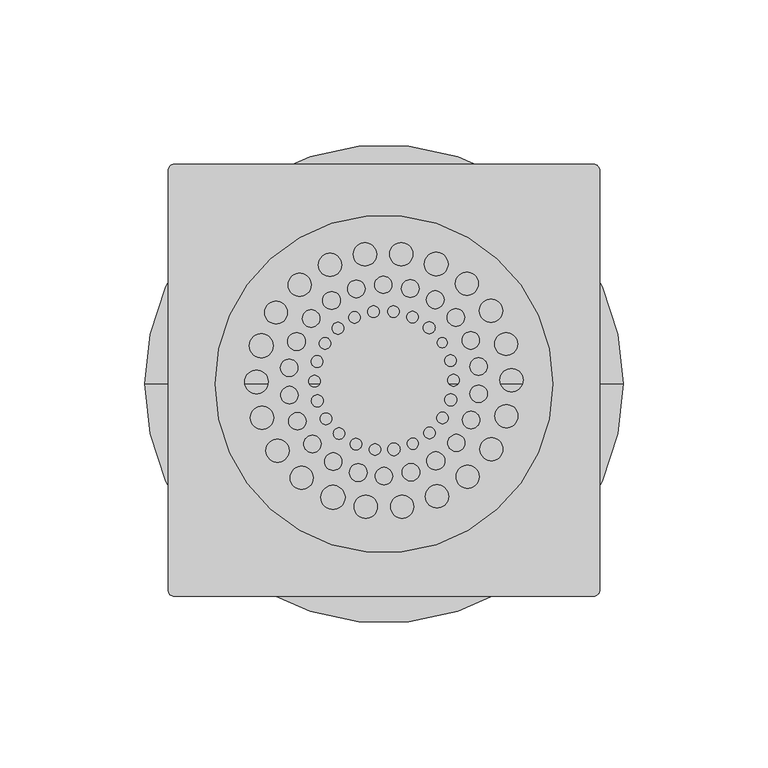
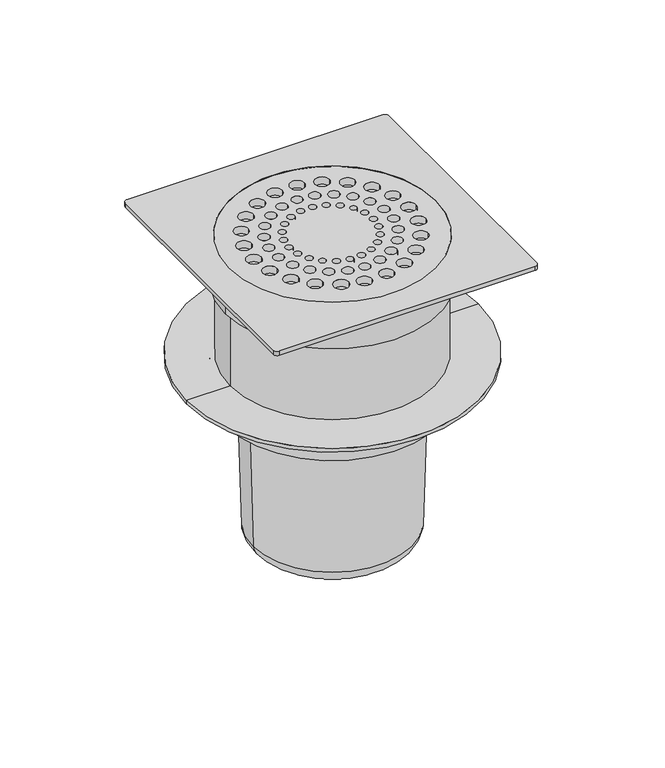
"""IFC4 building model written with IfcOpenShell, lengths in millimetres: flow terminal geometry, AI_Appareil sanitaire_Siphon de sol_Sortie verticale : Siphon de sol."""

from ifc_helpers import new_model, si_unit, point, frame, frame_2d, origin, origin_with_axes, place, context, project, spatial, polyline, circle_curve, ellipse_curve, trimmed, segment, composite_curve, outline, extrude, source, transform, mapped, element, save
from ifc_brep_helpers import plane_surface, cylinder_surface, revolved_surface, advanced_brep


def flow_terminal_425eb7e2(model_context):
    return source(origin(), model_context, "Body", "SolidModel", [
        advanced_brep(
        [(60.4618362, -1.2697961, -2.0522115), (-60.4727017, -1.2697961, -2.0522115), (-0.0054328, -1.2697961, -2.0522115), (60.4618362, -1.2697961, -23.7250315), (-60.4727017, -1.2697961, -23.7250315), (57.7345657, -1.2697961, -25.2996218), (-57.7454313, -1.2697961, -25.2996218), (57.7345657, -1.2697961, -67.7621939), (-57.7454313, -1.2697961, -67.7621939), (82.494787, -1.2697961, -67.7621939), (-82.5056525, -1.2697961, -67.7621939), (82.494787, -1.2697961, -69.9636643), (-82.5056525, -1.2697961, -69.9636643), (60.5069406, -1.2697961, -69.9636643), (-60.5178061, -1.2697961, -69.9636643), (60.5069406, -1.2697961, -90.4621959), (-60.5178061, -1.2697961, -90.4621959), (48.2467, -1.2697961, -90.4621959), (-48.2575656, -1.2697961, -90.4621959), (48.2467, -1.2697961, -95.4652283), (-48.2575656, -1.2697961, -95.4652283), (47.347651, -1.2697961, -95.4652283), (-47.3585166, -1.2697961, -95.4652283), (46.6244744, -1.2697961, -95.953017), (-46.63534, -1.2697961, -95.953017), (44.7260574, -1.2697961, -168.1693257), (-44.736923, -1.2697961, -168.1693257), (37.5171761, -1.2697961, -176.462195), (-37.5280416, -1.2697961, -176.462195), (-0.0054328, -1.2697961, -176.462195)],
        [
            (0, 1, circle_curve(frame((-0.0054328, -1.2697961, -2.0522115), z_axis=(0.0, 0.0, 1.0), x_axis=(-1.0, 0.0, 0.0)), 60.467269)),
            (1, 2),
            (2, 0),
            (1, 0, circle_curve(frame((-0.0054328, -1.2697961, -2.0522115), z_axis=(0.0, 0.0, 1.0), x_axis=(-1.0, 0.0, 0.0)), 60.467269)),
            (3, 4, circle_curve(frame((-0.0054328, -1.2697961, -23.7250315), z_axis=(0.0, 0.0, 1.0), x_axis=(-1.0, 0.0, 0.0)), 60.467269)),
            (4, 1),
            (0, 3),
            (4, 3, circle_curve(frame((-0.0054328, -1.2697961, -23.7250315), z_axis=(0.0, 0.0, 1.0), x_axis=(-1.0, 0.0, 0.0)), 60.467269)),
            (5, 6, circle_curve(frame((-0.0054328, -1.2697961, -25.2996218), z_axis=(0.0, 0.0, 1.0), x_axis=(-1.0, 0.0, 0.0)), 57.7399985)),
            (6, 4),
            (3, 5),
            (6, 5, circle_curve(frame((-0.0054328, -1.2697961, -25.2996218), z_axis=(0.0, 0.0, 1.0), x_axis=(-1.0, 0.0, 0.0)), 57.7399985)),
            (7, 8, circle_curve(frame((-0.0054328, -1.2697961, -67.7621939), z_axis=(0.0, 0.0, 1.0), x_axis=(-1.0, 0.0, 0.0)), 57.7399985)),
            (8, 6),
            (5, 7),
            (8, 7, circle_curve(frame((-0.0054328, -1.2697961, -67.7621939), z_axis=(0.0, 0.0, 1.0), x_axis=(-1.0, 0.0, 0.0)), 57.7399985)),
            (9, 10, circle_curve(frame((-0.0054328, -1.2697961, -67.7621939), z_axis=(0.0, 0.0, 1.0), x_axis=(-1.0, 0.0, 0.0)), 82.5002197)),
            (10, 8),
            (7, 9),
            (10, 9, circle_curve(frame((-0.0054328, -1.2697961, -67.7621939), z_axis=(0.0, 0.0, 1.0), x_axis=(-1.0, 0.0, 0.0)), 82.5002197)),
            (11, 12, circle_curve(frame((-0.0054328, -1.2697961, -69.9636643), z_axis=(0.0, 0.0, 1.0), x_axis=(-1.0, 0.0, 0.0)), 82.5002197)),
            (12, 10),
            (9, 11),
            (12, 11, circle_curve(frame((-0.0054328, -1.2697961, -69.9636643), z_axis=(0.0, 0.0, 1.0), x_axis=(-1.0, 0.0, 0.0)), 82.5002197)),
            (13, 14, circle_curve(frame((-0.0054328, -1.2697961, -69.9636643), z_axis=(0.0, 0.0, 1.0), x_axis=(-1.0, 0.0, 0.0)), 60.5123734)),
            (14, 12),
            (11, 13),
            (14, 13, circle_curve(frame((-0.0054328, -1.2697961, -69.9636643), z_axis=(0.0, 0.0, 1.0), x_axis=(-1.0, 0.0, 0.0)), 60.5123734)),
            (15, 16, circle_curve(frame((-0.0054328, -1.2697961, -90.4621959), z_axis=(0.0, 0.0, 1.0), x_axis=(-1.0, 0.0, 0.0)), 60.5123734)),
            (16, 14),
            (13, 15),
            (16, 15, circle_curve(frame((-0.0054328, -1.2697961, -90.4621959), z_axis=(0.0, 0.0, 1.0), x_axis=(-1.0, 0.0, 0.0)), 60.5123734)),
            (17, 18, circle_curve(frame((-0.0054328, -1.2697961, -90.4621959), z_axis=(0.0, 0.0, 1.0), x_axis=(-1.0, 0.0, 0.0)), 48.2521328)),
            (18, 16),
            (15, 17),
            (18, 17, circle_curve(frame((-0.0054328, -1.2697961, -90.4621959), z_axis=(0.0, 0.0, 1.0), x_axis=(-1.0, 0.0, 0.0)), 48.2521328)),
            (19, 20, circle_curve(frame((-0.0054328, -1.2697961, -95.4652283), z_axis=(0.0, 0.0, 1.0), x_axis=(-1.0, 0.0, 0.0)), 48.2521328)),
            (20, 18),
            (17, 19),
            (20, 19, circle_curve(frame((-0.0054328, -1.2697961, -95.4652283), z_axis=(0.0, 0.0, 1.0), x_axis=(-1.0, 0.0, 0.0)), 48.2521328)),
            (21, 22, circle_curve(frame((-0.0054328, -1.2697961, -95.4652283), z_axis=(0.0, 0.0, 1.0), x_axis=(-1.0, 0.0, 0.0)), 47.3530838)),
            (22, 20),
            (19, 21),
            (22, 21, circle_curve(frame((-0.0054328, -1.2697961, -95.4652283), z_axis=(0.0, 0.0, 1.0), x_axis=(-1.0, 0.0, 0.0)), 47.3530838)),
            (23, 24, circle_curve(frame((-0.0054328, -1.2697961, -95.953017), z_axis=(0.0, 0.0, 1.0), x_axis=(-1.0, 0.0, 0.0)), 46.6299072)),
            (24, 22, circle_curve(frame((-47.2576118, -1.2697961, -96.0956019), z_axis=(0.0, -1.0, 0.0), x_axis=(1.0, 0.0, 0.0)), 0.6383985)),
            (21, 23, circle_curve(frame((47.2467463, -1.2697961, -96.0956019), z_axis=(0.0, -1.0, 0.0), x_axis=(-1.0, 0.0, 0.0)), 0.6383985)),
            (24, 23, circle_curve(frame((-0.0054328, -1.2697961, -95.953017), z_axis=(0.0, 0.0, 1.0), x_axis=(-1.0, 0.0, 0.0)), 46.6299072)),
            (25, 26, circle_curve(frame((-0.0054328, -1.2697961, -168.1693257), z_axis=(0.0, 0.0, 1.0), x_axis=(-1.0, 0.0, 0.0)), 44.7314902)),
            (26, 24),
            (23, 25),
            (26, 25, circle_curve(frame((-0.0054328, -1.2697961, -168.1693257), z_axis=(0.0, 0.0, 1.0), x_axis=(-1.0, 0.0, 0.0)), 44.7314902)),
            (27, 28, circle_curve(frame((-0.0054328, -1.2697961, -176.462195), z_axis=(0.0, 0.0, 1.0), x_axis=(-1.0, 0.0, 0.0)), 37.5226089)),
            (28, 26, circle_curve(frame((-35.9839826, -1.2697961, -167.8402378), z_axis=(0.0, 1.0, 0.0), x_axis=(1.0, 0.0, 0.0)), 8.7591246)),
            (25, 27, circle_curve(frame((35.973117, -1.2697961, -167.8402378), z_axis=(0.0, 1.0, 0.0), x_axis=(-1.0, 0.0, 0.0)), 8.7591246)),
            (28, 27, circle_curve(frame((-0.0054328, -1.2697961, -176.462195), z_axis=(0.0, 0.0, 1.0), x_axis=(-1.0, 0.0, 0.0)), 37.5226089)),
            (29, 28),
            (27, 29),
        ],
        [
            plane_surface(frame((-0.0054328, -1.2697961, -2.0522115), z_axis=(0.0, 0.0, 1.0), x_axis=(-1.0, 0.0, 0.0))),
            cylinder_surface(frame((-0.0054328, -1.2697961, -176.462195), z_axis=(0.0, 0.0, -1.0), x_axis=(-1.0, 0.0, 0.0)), 60.467269),
            revolved_surface(polyline([(-60.4727017, -1.2697961, -23.7250315), (-57.7454313, -1.2697961, -25.2996218)]), (-0.0054328, -1.2697961, -176.462195), (0.0, 0.0, -1.0)),
            cylinder_surface(frame((-0.0054328, -1.2697961, -176.462195), z_axis=(0.0, 0.0, -1.0), x_axis=(-1.0, 0.0, 0.0)), 57.7399985),
            plane_surface(frame((-0.0054328, -1.2697961, -67.7621939), z_axis=(0.0, 0.0, 1.0), x_axis=(-1.0, 0.0, 0.0))),
            cylinder_surface(frame((-0.0054328, -1.2697961, -176.462195), z_axis=(0.0, 0.0, -1.0), x_axis=(-1.0, 0.0, 0.0)), 82.5002197),
            plane_surface(frame((-0.0054328, -1.2697961, -69.9636643), z_axis=(0.0, 0.0, -1.0), x_axis=(-1.0, 0.0, 0.0))),
            cylinder_surface(frame((-0.0054328, -1.2697961, -176.462195), z_axis=(0.0, 0.0, -1.0), x_axis=(-1.0, 0.0, 0.0)), 60.5123734),
            plane_surface(frame((-0.0054328, -1.2697961, -90.4621959), z_axis=(0.0, 0.0, -1.0), x_axis=(-1.0, 0.0, 0.0))),
            cylinder_surface(frame((-0.0054328, -1.2697961, -176.462195), z_axis=(0.0, 0.0, -1.0), x_axis=(-1.0, 0.0, 0.0)), 48.2521328),
            plane_surface(frame((-0.0054328, -1.2697961, -95.4652283), z_axis=(0.0, 0.0, -1.0), x_axis=(-1.0, 0.0, 0.0))),
            revolved_surface(trimmed(ellipse_curve(frame((-47.2576118, -1.2697961, -96.0956019), z_axis=(0.0, 1.0, 0.0), x_axis=(1.0, 0.0, 0.0)), 0.6383985, 0.6383985), [point((-47.3585166, -1.2697961, -95.4652283))], [point((-46.63534, -1.2697961, -95.953017))], True, "CARTESIAN"), (-0.0054328, -1.2697961, -176.462195), (0.0, 0.0, -1.0)),
            revolved_surface(polyline([(-46.63534, -1.2697961, -95.953017), (-44.736923, -1.2697961, -168.1693257)]), (-0.0054328, -1.2697961, -176.462195), (0.0, 0.0, -1.0)),
            revolved_surface(trimmed(ellipse_curve(frame((-35.9839826, -1.2697961, -167.8402378), z_axis=(0.0, -1.0, 0.0), x_axis=(1.0, 0.0, 0.0)), 8.7591246, 8.7591246), [point((-44.736923, -1.2697961, -168.1693257))], [point((-37.5280416, -1.2697961, -176.462195))], True, "CARTESIAN"), (-0.0054328, -1.2697961, -176.462195), (0.0, 0.0, -1.0)),
            plane_surface(frame((-0.0054328, -1.2697961, -176.462195), z_axis=(0.0, 0.0, -1.0), x_axis=(-1.0, 0.0, 0.0))),
        ],
        [
            (0, [[1, 2, 3]]),
            (0, [[4, -3, -2]]),
            (1, [[5, 6, -1, 7]]),
            (1, [[8, -7, -4, -6]]),
            (2, [[9, 10, -5, 11]]),
            (2, [[12, -11, -8, -10]]),
            (3, [[13, 14, -9, 15]]),
            (3, [[16, -15, -12, -14]]),
            (4, [[17, 18, -13, 19]]),
            (4, [[20, -19, -16, -18]]),
            (5, [[21, 22, -17, 23]]),
            (5, [[24, -23, -20, -22]]),
            (6, [[25, 26, -21, 27]]),
            (6, [[28, -27, -24, -26]]),
            (7, [[29, 30, -25, 31]]),
            (7, [[32, -31, -28, -30]]),
            (8, [[33, 34, -29, 35]]),
            (8, [[36, -35, -32, -34]]),
            (9, [[37, 38, -33, 39]]),
            (9, [[40, -39, -36, -38]]),
            (10, [[41, 42, -37, 43]]),
            (10, [[44, -43, -40, -42]]),
            (11, [[45, 46, -41, 47]]),
            (11, [[48, -47, -44, -46]]),
            (12, [[49, 50, -45, 51]]),
            (12, [[52, -51, -48, -50]]),
            (13, [[53, 54, -49, 55]]),
            (13, [[56, -55, -52, -54]]),
            (14, [[57, -53, 58]]),
            (14, [[-58, -56, -57]]),
        ],
    ),
        extrude(outline(composite_curve([segment(polyline([(72.2737667, -74.572082), (-72.3051489, -74.572082)]), True, "CONTINUOUS"), segment(trimmed(circle_curve(frame_2d((-72.3051489, -72.3884901)), 2.1835918), [point((-72.3051489, -74.572082))], [point((-74.4887407, -72.3884901))], False, "CARTESIAN"), True, "CONTINUOUS"), segment(polyline([(-74.4887407, -72.3884901), (-74.4887407, 72.3884901)]), True, "CONTINUOUS"), segment(trimmed(circle_curve(frame_2d((-72.3249299, 72.3884901)), 2.1638108), [point((-74.4887407, 72.3884901))], [point((-72.3249299, 74.5523009))], False, "CARTESIAN"), True, "CONTINUOUS"), segment(polyline([(-72.3249299, 74.5523009), (72.3249299, 74.5523009)]), True, "CONTINUOUS"), segment(trimmed(circle_curve(frame_2d((72.3249299, 72.3825461)), 2.1697548), [point((72.3249299, 74.5523009))], [point((74.4946847, 72.3825461))], False, "CARTESIAN"), True, "CONTINUOUS"), segment(polyline([(74.4946847, 72.3825461), (74.4946847, -72.3511639)]), True, "CONTINUOUS"), segment(trimmed(circle_curve(frame_2d((72.2737667, -72.3511639)), 2.220918), [point((74.4946847, -72.3511639))], [point((72.2737667, -74.572082))], False, "CARTESIAN"), True, "CONTINUOUS")], self_intersect=False), holes=[composite_curve([segment(trimmed(circle_curve(frame_2d((-0.0054328, -1.2697961)), 58.2552708), [point((-58.2607036, -1.2697961))], [point((58.249838, -1.2697961))], True, "CARTESIAN"), True, "CONTINUOUS"), segment(trimmed(circle_curve(frame_2d((-0.0054328, -1.2697961)), 58.2552708), [point((58.249838, -1.2697961))], [point((-58.2607036, -1.2697961))], True, "CARTESIAN"), True, "CONTINUOUS")], self_intersect=False)]), origin_with_axes(), (0.0, 0.0, 1.0), 2.5294595),
        extrude(outline(composite_curve([segment(trimmed(circle_curve(frame_2d((-0.0054328, -1.2697961)), 58.2552708), [point((58.249838, -1.2697961))], [point((-58.2607036, -1.2697961))], False, "CARTESIAN"), True, "CONTINUOUS"), segment(trimmed(circle_curve(frame_2d((-0.0054328, -1.2697961)), 58.2552708), [point((-58.2607036, -1.2697961))], [point((58.249838, -1.2697961))], False, "CARTESIAN"), True, "CONTINUOUS")], self_intersect=False), holes=[composite_curve([segment(trimmed(circle_curve(frame_2d((-37.2379326, 23.3741086)), 3.9297968), [point((-41.1677294, 23.3741086))], [point((-33.3081358, 23.3741086))], True, "CARTESIAN"), True, "CONTINUOUS"), segment(trimmed(circle_curve(frame_2d((-37.2379326, 23.3741086)), 3.9297968), [point((-33.3081358, 23.3741086))], [point((-41.1677294, 23.3741086))], True, "CARTESIAN"), True, "CONTINUOUS")], self_intersect=False), composite_curve([segment(trimmed(circle_curve(frame_2d((-29.1031559, 32.932438)), 4.0000012), [point((-33.1031571, 32.932438))], [point((-25.1031547, 32.932438))], True, "CARTESIAN"), True, "CONTINUOUS"), segment(trimmed(circle_curve(frame_2d((-29.1031559, 32.932438)), 4.0000012), [point((-25.1031547, 32.932438))], [point((-33.1031571, 32.932438))], True, "CARTESIAN"), True, "CONTINUOUS")], self_intersect=False), composite_curve([segment(trimmed(circle_curve(frame_2d((-18.6006368, 39.8050937)), 4.0000021), [point((-22.6006389, 39.8050937))], [point((-14.6006346, 39.8050937))], True, "CARTESIAN"), True, "CONTINUOUS"), segment(trimmed(circle_curve(frame_2d((-18.6006368, 39.8050937)), 4.0000021), [point((-14.6006346, 39.8050937))], [point((-22.6006389, 39.8050937))], True, "CARTESIAN"), True, "CONTINUOUS")], self_intersect=False), composite_curve([segment(trimmed(circle_curve(frame_2d((-6.5849885, 43.4328326)), 4.0164827), [point((-10.6014712, 43.4328326))], [point((-2.5685058, 43.4328326))], True, "CARTESIAN"), True, "CONTINUOUS"), segment(trimmed(circle_curve(frame_2d((-6.5849885, 43.4328326)), 4.0164827), [point((-2.5685058, 43.4328326))], [point((-10.6014712, 43.4328326))], True, "CARTESIAN"), True, "CONTINUOUS")], self_intersect=False), composite_curve([segment(trimmed(circle_curve(frame_2d((5.9660527, 43.5204567)), 4.0107661), [point((1.9552865, 43.5204567))], [point((9.9768188, 43.5204567))], True, "CARTESIAN"), True, "CONTINUOUS"), segment(trimmed(circle_curve(frame_2d((5.9660527, 43.5204567)), 4.0107661), [point((9.9768188, 43.5204567))], [point((1.9552865, 43.5204567))], True, "CARTESIAN"), True, "CONTINUOUS")], self_intersect=False), composite_curve([segment(trimmed(circle_curve(frame_2d((18.0311809, 40.0608376)), 4.069108), [point((13.9620729, 40.0608376))], [point((22.1002889, 40.0608376))], True, "CARTESIAN"), True, "CONTINUOUS"), segment(trimmed(circle_curve(frame_2d((18.0311809, 40.0608376)), 4.069108), [point((22.1002889, 40.0608376))], [point((13.9620729, 40.0608376))], True, "CARTESIAN"), True, "CONTINUOUS")], self_intersect=False), composite_curve([segment(trimmed(circle_curve(frame_2d((28.6286332, 33.3354895)), 3.9860411), [point((24.642592, 33.3354895))], [point((32.6146743, 33.3354895))], True, "CARTESIAN"), True, "CONTINUOUS"), segment(trimmed(circle_curve(frame_2d((28.6286332, 33.3354895)), 3.9860411), [point((32.6146743, 33.3354895))], [point((24.642592, 33.3354895))], True, "CARTESIAN"), True, "CONTINUOUS")], self_intersect=False), composite_curve([segment(trimmed(circle_curve(frame_2d((17.6768517, 27.7903724)), 3.0482625), [point((14.6285892, 27.7903724))], [point((20.7251142, 27.7903724))], True, "CARTESIAN"), True, "CONTINUOUS"), segment(trimmed(circle_curve(frame_2d((17.6768517, 27.7903724)), 3.0482625), [point((20.7251142, 27.7903724))], [point((14.6285892, 27.7903724))], True, "CARTESIAN"), True, "CONTINUOUS")], self_intersect=False), composite_curve([segment(trimmed(circle_curve(frame_2d((9.8327198, 21.8184338)), 2.0000135), [point((7.8327062, 21.8184338))], [point((11.8327333, 21.8184338))], True, "CARTESIAN"), True, "CONTINUOUS"), segment(trimmed(circle_curve(frame_2d((9.8327198, 21.8184338)), 2.0000135), [point((11.8327333, 21.8184338))], [point((7.8327062, 21.8184338))], True, "CARTESIAN"), True, "CONTINUOUS")], self_intersect=False), composite_curve([segment(trimmed(circle_curve(frame_2d((36.9414242, 23.987013)), 3.9860411), [point((32.9553831, 23.987013))], [point((40.9274653, 23.987013))], True, "CARTESIAN"), True, "CONTINUOUS"), segment(trimmed(circle_curve(frame_2d((36.9414242, 23.987013)), 3.9860411), [point((40.9274653, 23.987013))], [point((32.9553831, 23.987013))], True, "CARTESIAN"), True, "CONTINUOUS")], self_intersect=False), composite_curve([segment(trimmed(circle_curve(frame_2d((42.1607593, 12.4978395)), 3.9496144), [point((38.211145, 12.4978395))], [point((46.1103737, 12.4978395))], True, "CARTESIAN"), True, "CONTINUOUS"), segment(trimmed(circle_curve(frame_2d((42.1607593, 12.4978395)), 3.9496144), [point((46.1103737, 12.4978395))], [point((38.211145, 12.4978395))], True, "CARTESIAN"), True, "CONTINUOUS")], self_intersect=False), composite_curve([segment(trimmed(circle_curve(frame_2d((32.6405544, 4.7482908)), 2.9999982), [point((29.6405562, 4.7482908))], [point((35.6405526, 4.7482908))], True, "CARTESIAN"), True, "CONTINUOUS"), segment(trimmed(circle_curve(frame_2d((32.6405544, 4.7482908)), 2.9999982), [point((35.6405526, 4.7482908))], [point((29.6405562, 4.7482908))], True, "CARTESIAN"), True, "CONTINUOUS")], self_intersect=False), composite_curve([segment(trimmed(circle_curve(frame_2d((29.9512246, 13.7694703)), 2.9999986), [point((26.951226, 13.7694703))], [point((32.9512231, 13.7694703))], True, "CARTESIAN"), True, "CONTINUOUS"), segment(trimmed(circle_curve(frame_2d((29.9512246, 13.7694703)), 2.9999986), [point((32.9512231, 13.7694703))], [point((26.951226, 13.7694703))], True, "CARTESIAN"), True, "CONTINUOUS")], self_intersect=False), composite_curve([segment(trimmed(circle_curve(frame_2d((20.1226605, 12.9988886)), 1.7615214), [point((18.361139, 12.9988886))], [point((21.8841819, 12.9988886))], True, "CARTESIAN"), True, "CONTINUOUS"), segment(trimmed(circle_curve(frame_2d((20.1226605, 12.9988886)), 1.7615214), [point((21.8841819, 12.9988886))], [point((18.361139, 12.9988886))], True, "CARTESIAN"), True, "CONTINUOUS")], self_intersect=False), composite_curve([segment(trimmed(circle_curve(frame_2d((22.9943091, 6.7840714)), 2.0000022), [point((20.9943069, 6.7840714))], [point((24.9943113, 6.7840714))], True, "CARTESIAN"), True, "CONTINUOUS"), segment(trimmed(circle_curve(frame_2d((22.9943091, 6.7840714)), 2.0000022), [point((24.9943113, 6.7840714))], [point((20.9943069, 6.7840714))], True, "CARTESIAN"), True, "CONTINUOUS")], self_intersect=False), composite_curve([segment(trimmed(circle_curve(frame_2d((23.9944218, 0.0113262)), 2.0208255), [point((21.9735963, 0.0113262))], [point((26.0152473, 0.0113262))], True, "CARTESIAN"), True, "CONTINUOUS"), segment(trimmed(circle_curve(frame_2d((23.9944218, 0.0113262)), 2.0208255), [point((26.0152473, 0.0113262))], [point((21.9735963, 0.0113262))], True, "CARTESIAN"), True, "CONTINUOUS")], self_intersect=False), composite_curve([segment(trimmed(circle_curve(frame_2d((23.0416161, -6.7682359)), 2.0674525), [point((20.9741636, -6.7682359))], [point((25.1090686, -6.7682359))], True, "CARTESIAN"), True, "CONTINUOUS"), segment(trimmed(circle_curve(frame_2d((23.0416161, -6.7682359)), 2.0674525), [point((25.1090686, -6.7682359))], [point((20.9741636, -6.7682359))], True, "CARTESIAN"), True, "CONTINUOUS")], self_intersect=False), composite_curve([segment(trimmed(circle_curve(frame_2d((32.6734126, -4.6651609)), 2.9998823), [point((29.6735303, -4.6651609))], [point((35.6732949, -4.6651609))], True, "CARTESIAN"), True, "CONTINUOUS"), segment(trimmed(circle_curve(frame_2d((32.6734126, -4.6651609)), 2.9998823), [point((35.6732949, -4.6651609))], [point((29.6735303, -4.6651609))], True, "CARTESIAN"), True, "CONTINUOUS")], self_intersect=False), composite_curve([segment(trimmed(circle_curve(frame_2d((43.9942979, 0.0811396)), 3.9999997), [point((39.9942982, 0.0811396))], [point((47.9942977, 0.0811396))], True, "CARTESIAN"), True, "CONTINUOUS"), segment(trimmed(circle_curve(frame_2d((43.9942979, 0.0811396)), 3.9999997), [point((47.9942977, 0.0811396))], [point((39.9942982, 0.0811396))], True, "CARTESIAN"), True, "CONTINUOUS")], self_intersect=False), composite_curve([segment(trimmed(circle_curve(frame_2d((42.2474864, -12.3480581)), 3.9999978), [point((38.2474886, -12.3480581))], [point((46.2474842, -12.3480581))], True, "CARTESIAN"), True, "CONTINUOUS"), segment(trimmed(circle_curve(frame_2d((42.2474864, -12.3480581)), 3.9999978), [point((46.2474842, -12.3480581))], [point((38.2474886, -12.3480581))], True, "CARTESIAN"), True, "CONTINUOUS")], self_intersect=False), composite_curve([segment(trimmed(circle_curve(frame_2d((30.0471285, -13.7048952)), 2.999998), [point((27.0471305, -13.7048952))], [point((33.0471265, -13.7048952))], True, "CARTESIAN"), True, "CONTINUOUS"), segment(trimmed(circle_curve(frame_2d((30.0471285, -13.7048952)), 2.999998), [point((33.0471265, -13.7048952))], [point((27.0471305, -13.7048952))], True, "CARTESIAN"), True, "CONTINUOUS")], self_intersect=False), composite_curve([segment(trimmed(circle_curve(frame_2d((20.2134236, -13.0029463)), 1.9999987), [point((18.2134249, -13.0029463))], [point((22.2134223, -13.0029463))], True, "CARTESIAN"), True, "CONTINUOUS"), segment(trimmed(circle_curve(frame_2d((20.2134236, -13.0029463)), 1.9999987), [point((22.2134223, -13.0029463))], [point((18.2134249, -13.0029463))], True, "CARTESIAN"), True, "CONTINUOUS")], self_intersect=False), composite_curve([segment(trimmed(circle_curve(frame_2d((15.7399826, -18.1854788)), 2.0000023), [point((13.7399804, -18.1854788))], [point((17.7399849, -18.1854788))], True, "CARTESIAN"), True, "CONTINUOUS"), segment(trimmed(circle_curve(frame_2d((15.7399826, -18.1854788)), 2.0000023), [point((17.7399849, -18.1854788))], [point((13.7399804, -18.1854788))], True, "CARTESIAN"), True, "CONTINUOUS")], self_intersect=False), composite_curve([segment(trimmed(circle_curve(frame_2d((24.9754041, -21.6353284)), 2.954985), [point((22.0204191, -21.6353284))], [point((27.9303891, -21.6353284))], True, "CARTESIAN"), True, "CONTINUOUS"), segment(trimmed(circle_curve(frame_2d((24.9754041, -21.6353284)), 2.954985), [point((27.9303891, -21.6353284))], [point((22.0204191, -21.6353284))], True, "CARTESIAN"), True, "CONTINUOUS")], self_intersect=False), composite_curve([segment(trimmed(circle_curve(frame_2d((37.0624695, -23.7783617)), 3.9637746), [point((33.0986949, -23.7783617))], [point((41.0262442, -23.7783617))], True, "CARTESIAN"), True, "CONTINUOUS"), segment(trimmed(circle_curve(frame_2d((37.0624695, -23.7783617)), 3.9637746), [point((41.0262442, -23.7783617))], [point((33.0986949, -23.7783617))], True, "CARTESIAN"), True, "CONTINUOUS")], self_intersect=False), composite_curve([segment(trimmed(circle_curve(frame_2d((28.8611646, -33.279669)), 3.9999914), [point((24.8611732, -33.279669))], [point((32.861156, -33.279669))], True, "CARTESIAN"), True, "CONTINUOUS"), segment(trimmed(circle_curve(frame_2d((28.8611646, -33.279669)), 3.9999914), [point((32.861156, -33.279669))], [point((24.8611732, -33.279669))], True, "CARTESIAN"), True, "CONTINUOUS")], self_intersect=False), composite_curve([segment(trimmed(circle_curve(frame_2d((17.870939, -27.8111461)), 3.117391), [point((14.753548, -27.8111461))], [point((20.9883301, -27.8111461))], True, "CARTESIAN"), True, "CONTINUOUS"), segment(trimmed(circle_curve(frame_2d((17.870939, -27.8111461)), 3.117391), [point((20.9883301, -27.8111461))], [point((14.753548, -27.8111461))], True, "CARTESIAN"), True, "CONTINUOUS")], self_intersect=False), composite_curve([segment(trimmed(circle_curve(frame_2d((9.9853057, -21.8941153)), 1.9166919), [point((8.0686138, -21.8941153))], [point((11.9019977, -21.8941153))], True, "CARTESIAN"), True, "CONTINUOUS"), segment(trimmed(circle_curve(frame_2d((9.9853057, -21.8941153)), 1.9166919), [point((11.9019977, -21.8941153))], [point((8.0686138, -21.8941153))], True, "CARTESIAN"), True, "CONTINUOUS")], self_intersect=False), composite_curve([segment(trimmed(circle_curve(frame_2d((3.4176619, -23.8270778)), 2.1543473), [point((1.2633145, -23.8270778))], [point((5.5720092, -23.8270778))], True, "CARTESIAN"), True, "CONTINUOUS"), segment(trimmed(circle_curve(frame_2d((3.4176619, -23.8270778)), 2.1543473), [point((5.5720092, -23.8270778))], [point((1.2633145, -23.8270778))], True, "CARTESIAN"), True, "CONTINUOUS")], self_intersect=False), composite_curve([segment(trimmed(circle_curve(frame_2d((9.3118352, -31.729809)), 3.0168508), [point((6.2949844, -31.729809))], [point((12.3286861, -31.729809))], True, "CARTESIAN"), True, "CONTINUOUS"), segment(trimmed(circle_curve(frame_2d((9.3118352, -31.729809)), 3.0168508), [point((12.3286861, -31.729809))], [point((6.2949844, -31.729809))], True, "CARTESIAN"), True, "CONTINUOUS")], self_intersect=False), composite_curve([segment(trimmed(circle_curve(frame_2d((18.3109223, -40.0788384)), 4.0000274), [point((14.3108949, -40.0788384))], [point((22.3109497, -40.0788384))], True, "CARTESIAN"), True, "CONTINUOUS"), segment(trimmed(circle_curve(frame_2d((18.3109223, -40.0788384)), 4.0000274), [point((22.3109497, -40.0788384))], [point((14.3108949, -40.0788384))], True, "CARTESIAN"), True, "CONTINUOUS")], self_intersect=False), composite_curve([segment(trimmed(circle_curve(frame_2d((6.2702404, -43.6226015)), 3.9999968), [point((2.2702436, -43.6226015))], [point((10.2702371, -43.6226015))], True, "CARTESIAN"), True, "CONTINUOUS"), segment(trimmed(circle_curve(frame_2d((6.2702404, -43.6226015)), 3.9999968), [point((10.2702371, -43.6226015))], [point((2.2702436, -43.6226015))], True, "CARTESIAN"), True, "CONTINUOUS")], self_intersect=False), composite_curve([segment(trimmed(circle_curve(frame_2d((-0.0054328, -33.072446)), 2.9999986), [point((-3.0054313, -33.072446))], [point((2.9945658, -33.072446))], True, "CARTESIAN"), True, "CONTINUOUS"), segment(trimmed(circle_curve(frame_2d((-0.0054328, -33.072446)), 2.9999986), [point((2.9945658, -33.072446))], [point((-3.0054313, -33.072446))], True, "CARTESIAN"), True, "CONTINUOUS")], self_intersect=False), composite_curve([segment(trimmed(circle_curve(frame_2d((-6.2811056, -43.6226015)), 4.0077158), [point((-10.2888214, -43.6226015))], [point((-2.2733898, -43.6226015))], True, "CARTESIAN"), True, "CONTINUOUS"), segment(trimmed(circle_curve(frame_2d((-6.2811056, -43.6226015)), 4.0077158), [point((-2.2733898, -43.6226015))], [point((-10.2888214, -43.6226015))], True, "CARTESIAN"), True, "CONTINUOUS")], self_intersect=False), composite_curve([segment(trimmed(circle_curve(frame_2d((-8.8797869, -31.8568135)), 3.0750539), [point((-11.9548408, -31.8568135))], [point((-5.804733, -31.8568135))], True, "CARTESIAN"), True, "CONTINUOUS"), segment(trimmed(circle_curve(frame_2d((-8.8797869, -31.8568135)), 3.0750539), [point((-5.804733, -31.8568135))], [point((-11.9548408, -31.8568135))], True, "CARTESIAN"), True, "CONTINUOUS")], self_intersect=False), composite_curve([segment(trimmed(circle_curve(frame_2d((-17.6003162, -40.4343386)), 4.1529549), [point((-21.753271, -40.4343386))], [point((-13.4473613, -40.4343386))], True, "CARTESIAN"), True, "CONTINUOUS"), segment(trimmed(circle_curve(frame_2d((-17.6003162, -40.4343386)), 4.1529549), [point((-13.4473613, -40.4343386))], [point((-21.753271, -40.4343386))], True, "CARTESIAN"), True, "CONTINUOUS")], self_intersect=False), composite_curve([segment(trimmed(circle_curve(frame_2d((-17.4927676, -28.0580355)), 3.0000017), [point((-20.4927693, -28.0580355))], [point((-14.4927659, -28.0580355))], True, "CARTESIAN"), True, "CONTINUOUS"), segment(trimmed(circle_curve(frame_2d((-17.4927676, -28.0580355)), 3.0000017), [point((-14.4927659, -28.0580355))], [point((-20.4927693, -28.0580355))], True, "CARTESIAN"), True, "CONTINUOUS")], self_intersect=False), composite_curve([segment(trimmed(circle_curve(frame_2d((-28.4055706, -33.6794743)), 3.9999988), [point((-32.4055695, -33.6794743))], [point((-24.4055718, -33.6794743))], True, "CARTESIAN"), True, "CONTINUOUS"), segment(trimmed(circle_curve(frame_2d((-28.4055706, -33.6794743)), 3.9999988), [point((-24.4055718, -33.6794743))], [point((-32.4055695, -33.6794743))], True, "CARTESIAN"), True, "CONTINUOUS")], self_intersect=False), composite_curve([segment(trimmed(circle_curve(frame_2d((-24.6827703, -21.9820131)), 2.9999979), [point((-27.6827682, -21.9820131))], [point((-21.6827724, -21.9820131))], True, "CARTESIAN"), True, "CONTINUOUS"), segment(trimmed(circle_curve(frame_2d((-24.6827703, -21.9820131)), 2.9999979), [point((-21.6827724, -21.9820131))], [point((-27.6827682, -21.9820131))], True, "CARTESIAN"), True, "CONTINUOUS")], self_intersect=False), composite_curve([segment(trimmed(circle_curve(frame_2d((-15.4964164, -18.4035524)), 1.9543498), [point((-17.4507662, -18.4035524))], [point((-13.5420666, -18.4035524))], True, "CARTESIAN"), True, "CONTINUOUS"), segment(trimmed(circle_curve(frame_2d((-15.4964164, -18.4035524)), 1.9543498), [point((-13.5420666, -18.4035524))], [point((-17.4507662, -18.4035524))], True, "CARTESIAN"), True, "CONTINUOUS")], self_intersect=False), composite_curve([segment(trimmed(circle_curve(frame_2d((-9.6905202, -22.0314809)), 2.0036615), [point((-11.6941817, -22.0314809))], [point((-7.6868587, -22.0314809))], True, "CARTESIAN"), True, "CONTINUOUS"), segment(trimmed(circle_curve(frame_2d((-9.6905202, -22.0314809)), 2.0036615), [point((-7.6868587, -22.0314809))], [point((-11.6941817, -22.0314809))], True, "CARTESIAN"), True, "CONTINUOUS")], self_intersect=False), composite_curve([segment(trimmed(circle_curve(frame_2d((-3.0965271, -23.8725568)), 1.9641335), [point((-5.0606607, -23.8725568))], [point((-1.1323936, -23.8725568))], True, "CARTESIAN"), True, "CONTINUOUS"), segment(trimmed(circle_curve(frame_2d((-3.0965271, -23.8725568)), 1.9641335), [point((-1.1323936, -23.8725568))], [point((-5.0606607, -23.8725568))], True, "CARTESIAN"), True, "CONTINUOUS")], self_intersect=False), composite_curve([segment(trimmed(circle_curve(frame_2d((-20.0417813, -13.2839861)), 1.9999966), [point((-22.0417779, -13.2839861))], [point((-18.0417847, -13.2839861))], True, "CARTESIAN"), True, "CONTINUOUS"), segment(trimmed(circle_curve(frame_2d((-20.0417813, -13.2839861)), 1.9999966), [point((-18.0417847, -13.2839861))], [point((-22.0417779, -13.2839861))], True, "CARTESIAN"), True, "CONTINUOUS")], self_intersect=False), composite_curve([segment(trimmed(circle_curve(frame_2d((-29.864726, -14.1231643)), 3.0000002), [point((-32.8647262, -14.1231643))], [point((-26.8647257, -14.1231643))], True, "CARTESIAN"), True, "CONTINUOUS"), segment(trimmed(circle_curve(frame_2d((-29.864726, -14.1231643)), 3.0000002), [point((-26.8647257, -14.1231643))], [point((-32.8647262, -14.1231643))], True, "CARTESIAN"), True, "CONTINUOUS")], self_intersect=False), composite_curve([segment(trimmed(circle_curve(frame_2d((-36.7387386, -24.2935998)), 3.9999994), [point((-40.738738, -24.2935998))], [point((-32.7387392, -24.2935998))], True, "CARTESIAN"), True, "CONTINUOUS"), segment(trimmed(circle_curve(frame_2d((-36.7387386, -24.2935998)), 3.9999994), [point((-32.7387392, -24.2935998))], [point((-40.738738, -24.2935998))], True, "CARTESIAN"), True, "CONTINUOUS")], self_intersect=False), composite_curve([segment(trimmed(circle_curve(frame_2d((-42.0828426, -12.9368042)), 4.0), [point((-46.0828426, -12.9368042))], [point((-38.0828426, -12.9368042))], True, "CARTESIAN"), True, "CONTINUOUS"), segment(trimmed(circle_curve(frame_2d((-42.0828426, -12.9368042)), 4.0), [point((-38.0828426, -12.9368042))], [point((-46.0828426, -12.9368042))], True, "CARTESIAN"), True, "CONTINUOUS")], self_intersect=False), composite_curve([segment(trimmed(circle_curve(frame_2d((-32.61697, -5.1209797)), 3.0000002), [point((-35.6169703, -5.1209797))], [point((-29.6169698, -5.1209797))], True, "CARTESIAN"), True, "CONTINUOUS"), segment(trimmed(circle_curve(frame_2d((-32.61697, -5.1209797)), 3.0000002), [point((-29.6169698, -5.1209797))], [point((-35.6169703, -5.1209797))], True, "CARTESIAN"), True, "CONTINUOUS")], self_intersect=False), composite_curve([segment(trimmed(circle_curve(frame_2d((-22.9567458, -7.0893703)), 2.0676815), [point((-25.0244273, -7.0893703))], [point((-20.8890643, -7.0893703))], True, "CARTESIAN"), True, "CONTINUOUS"), segment(trimmed(circle_curve(frame_2d((-22.9567458, -7.0893703)), 2.0676815), [point((-20.8890643, -7.0893703))], [point((-25.0244273, -7.0893703))], True, "CARTESIAN"), True, "CONTINUOUS")], self_intersect=False), composite_curve([segment(trimmed(circle_curve(frame_2d((-24.0041178, -0.3237721)), 2.0), [point((-26.0041178, -0.3237721))], [point((-22.0041178, -0.3237721))], True, "CARTESIAN"), True, "CONTINUOUS"), segment(trimmed(circle_curve(frame_2d((-24.0041178, -0.3237721)), 2.0), [point((-22.0041178, -0.3237721))], [point((-26.0041178, -0.3237721))], True, "CARTESIAN"), True, "CONTINUOUS")], self_intersect=False), composite_curve([segment(trimmed(circle_curve(frame_2d((-44.0030197, -0.5332079)), 4.0711099), [point((-48.0741297, -0.5332079))], [point((-39.9319098, -0.5332079))], True, "CARTESIAN"), True, "CONTINUOUS"), segment(trimmed(circle_curve(frame_2d((-44.0030197, -0.5332079)), 4.0711099), [point((-39.9319098, -0.5332079))], [point((-48.0741297, -0.5332079))], True, "CARTESIAN"), True, "CONTINUOUS")], self_intersect=False), composite_curve([segment(trimmed(circle_curve(frame_2d((-32.7155467, 4.2920114)), 2.9999989), [point((-35.7155456, 4.2920114))], [point((-29.7155478, 4.2920114))], True, "CARTESIAN"), True, "CONTINUOUS"), segment(trimmed(circle_curve(frame_2d((-32.7155467, 4.2920114)), 2.9999989), [point((-29.7155478, 4.2920114))], [point((-35.7155456, 4.2920114))], True, "CARTESIAN"), True, "CONTINUOUS")], self_intersect=False), composite_curve([segment(trimmed(circle_curve(frame_2d((-23.0986635, 6.4622767)), 2.0577551), [point((-25.1564185, 6.4622767))], [point((-21.0409084, 6.4622767))], True, "CARTESIAN"), True, "CONTINUOUS"), segment(trimmed(circle_curve(frame_2d((-23.0986635, 6.4622767)), 2.0577551), [point((-21.0409084, 6.4622767))], [point((-25.1564185, 6.4622767))], True, "CARTESIAN"), True, "CONTINUOUS")], self_intersect=False), composite_curve([segment(trimmed(circle_curve(frame_2d((-20.3140684, 12.7165819)), 2.0000008), [point((-22.3140692, 12.7165819))], [point((-18.3140676, 12.7165819))], True, "CARTESIAN"), True, "CONTINUOUS"), segment(trimmed(circle_curve(frame_2d((-20.3140684, 12.7165819)), 2.0000008), [point((-18.3140676, 12.7165819))], [point((-22.3140692, 12.7165819))], True, "CARTESIAN"), True, "CONTINUOUS")], self_intersect=False), composite_curve([segment(trimmed(circle_curve(frame_2d((-30.1524333, 13.3498602)), 3.0662118), [point((-33.2186451, 13.3498602))], [point((-27.0862214, 13.3498602))], True, "CARTESIAN"), True, "CONTINUOUS"), segment(trimmed(circle_curve(frame_2d((-30.1524333, 13.3498602)), 3.0662118), [point((-27.0862214, 13.3498602))], [point((-33.2186451, 13.3498602))], True, "CARTESIAN"), True, "CONTINUOUS")], self_intersect=False), composite_curve([segment(trimmed(circle_curve(frame_2d((-42.3430239, 11.9078818)), 4.1150314), [point((-46.4580553, 11.9078818))], [point((-38.2279924, 11.9078818))], True, "CARTESIAN"), True, "CONTINUOUS"), segment(trimmed(circle_curve(frame_2d((-42.3430239, 11.9078818)), 4.1150314), [point((-38.2279924, 11.9078818))], [point((-46.4580553, 11.9078818))], True, "CARTESIAN"), True, "CONTINUOUS")], self_intersect=False), composite_curve([segment(trimmed(circle_curve(frame_2d((-25.1361992, 21.3155082)), 3.0000176), [point((-28.1362168, 21.3155082))], [point((-22.1361816, 21.3155082))], True, "CARTESIAN"), True, "CONTINUOUS"), segment(trimmed(circle_curve(frame_2d((-25.1361992, 21.3155082)), 3.0000176), [point((-22.1361816, 21.3155082))], [point((-28.1362168, 21.3155082))], True, "CARTESIAN"), True, "CONTINUOUS")], self_intersect=False), composite_curve([segment(trimmed(circle_curve(frame_2d((-15.876917, 17.9302168)), 2.0459449), [point((-17.9228619, 17.9302168))], [point((-13.8309721, 17.9302168))], True, "CARTESIAN"), True, "CONTINUOUS"), segment(trimmed(circle_curve(frame_2d((-15.876917, 17.9302168)), 2.0459449), [point((-13.8309721, 17.9302168))], [point((-17.9228619, 17.9302168))], True, "CARTESIAN"), True, "CONTINUOUS")], self_intersect=False), composite_curve([segment(trimmed(circle_curve(frame_2d((-18.0750188, 27.5407732)), 3.0705533), [point((-21.1455721, 27.5407732))], [point((-15.0044654, 27.5407732))], True, "CARTESIAN"), True, "CONTINUOUS"), segment(trimmed(circle_curve(frame_2d((-18.0750188, 27.5407732)), 3.0705533), [point((-15.0044654, 27.5407732))], [point((-21.1455721, 27.5407732))], True, "CARTESIAN"), True, "CONTINUOUS")], self_intersect=False), composite_curve([segment(trimmed(circle_curve(frame_2d((-10.148271, 21.6789381)), 1.9999759), [point((-12.1482468, 21.6789381))], [point((-8.1482951, 21.6789381))], True, "CARTESIAN"), True, "CONTINUOUS"), segment(trimmed(circle_curve(frame_2d((-10.148271, 21.6789381)), 1.9999759), [point((-8.1482951, 21.6789381))], [point((-12.1482468, 21.6789381))], True, "CARTESIAN"), True, "CONTINUOUS")], self_intersect=False), composite_curve([segment(trimmed(circle_curve(frame_2d((-3.5942813, 23.6577043)), 2.0028465), [point((-5.5971278, 23.6577043))], [point((-1.5914349, 23.6577043))], True, "CARTESIAN"), True, "CONTINUOUS"), segment(trimmed(circle_curve(frame_2d((-3.5942813, 23.6577043)), 2.0028465), [point((-1.5914349, 23.6577043))], [point((-5.5971278, 23.6577043))], True, "CARTESIAN"), True, "CONTINUOUS")], self_intersect=False), composite_curve([segment(trimmed(circle_curve(frame_2d((-9.5434822, 31.5190942)), 2.999999), [point((-12.5434812, 31.5190942))], [point((-6.5434831, 31.5190942))], True, "CARTESIAN"), True, "CONTINUOUS"), segment(trimmed(circle_curve(frame_2d((-9.5434822, 31.5190942)), 2.999999), [point((-6.5434831, 31.5190942))], [point((-12.5434812, 31.5190942))], True, "CARTESIAN"), True, "CONTINUOUS")], self_intersect=False), composite_curve([segment(trimmed(circle_curve(frame_2d((-0.2358145, 32.926747)), 2.9520312), [point((-3.1878457, 32.926747))], [point((2.7162167, 32.926747))], True, "CARTESIAN"), True, "CONTINUOUS"), segment(trimmed(circle_curve(frame_2d((-0.2358145, 32.926747)), 2.9520312), [point((2.7162167, 32.926747))], [point((-3.1878457, 32.926747))], True, "CARTESIAN"), True, "CONTINUOUS")], self_intersect=False), composite_curve([segment(trimmed(circle_curve(frame_2d((3.2517413, 23.7054996)), 2.0000011), [point((1.2517402, 23.7054996))], [point((5.2517424, 23.7054996))], True, "CARTESIAN"), True, "CONTINUOUS"), segment(trimmed(circle_curve(frame_2d((3.2517413, 23.7054996)), 2.0000011), [point((5.2517424, 23.7054996))], [point((1.2517402, 23.7054996))], True, "CARTESIAN"), True, "CONTINUOUS")], self_intersect=False), composite_curve([segment(trimmed(circle_curve(frame_2d((9.0906, 31.6491871)), 3.0425999), [point((6.0480001, 31.6491871))], [point((12.1331999, 31.6491871))], True, "CARTESIAN"), True, "CONTINUOUS"), segment(trimmed(circle_curve(frame_2d((9.0906, 31.6491871)), 3.0425999), [point((12.1331999, 31.6491871))], [point((6.0480001, 31.6491871))], True, "CARTESIAN"), True, "CONTINUOUS")], self_intersect=False), composite_curve([segment(trimmed(circle_curve(frame_2d((15.613148, 18.1500628)), 2.0291105), [point((13.5840375, 18.1500628))], [point((17.6422585, 18.1500628))], True, "CARTESIAN"), True, "CONTINUOUS"), segment(trimmed(circle_curve(frame_2d((15.613148, 18.1500628)), 2.0291105), [point((17.6422585, 18.1500628))], [point((13.5840375, 18.1500628))], True, "CARTESIAN"), True, "CONTINUOUS")], self_intersect=False), composite_curve([segment(trimmed(circle_curve(frame_2d((24.8242585, 21.6643031)), 3.0184934), [point((21.8057651, 21.6643031))], [point((27.8427519, 21.6643031))], True, "CARTESIAN"), True, "CONTINUOUS"), segment(trimmed(circle_curve(frame_2d((24.8242585, 21.6643031)), 3.0184934), [point((27.8427519, 21.6643031))], [point((21.8057651, 21.6643031))], True, "CARTESIAN"), True, "CONTINUOUS")], self_intersect=False)]), frame((0.0, 0.0, -2.0522115), z_axis=(0.0, 0.0, 1.0), x_axis=(1.0, 0.0, 0.0)), (0.0, 0.0, 1.0), 4.5816709),
    ])


if __name__ == "__main__":
    model = new_model("IFC4")
    model_context = context("Model", 3, world=origin())
    ifc_project = project(units=[si_unit("LENGTHUNIT", "METRE", prefix="MILLI")], contexts=[model_context])
    site = spatial("IfcSite", under=ifc_project)
    building = spatial("IfcBuilding", under=site)
    placement = place(None, origin())
    flow_terminal_shape = flow_terminal_425eb7e2(model_context)
    element("IfcFlowTerminal", 1, ObjectType="AI_Appareil sanitaire_Siphon de sol_Sortie verticale : Siphon de sol", at=placement, inside=building, context=model_context, shape_type="MappedRepresentation", body=[
        mapped(flow_terminal_shape, transform((0.0, 0.0, 0.0), x_axis=(1.0, 0.0, 0.0), y_axis=(0.0, 1.0, 0.0), z_axis=(0.0, 0.0, 1.0))),
    ])
    save(model, "model.ifc")
